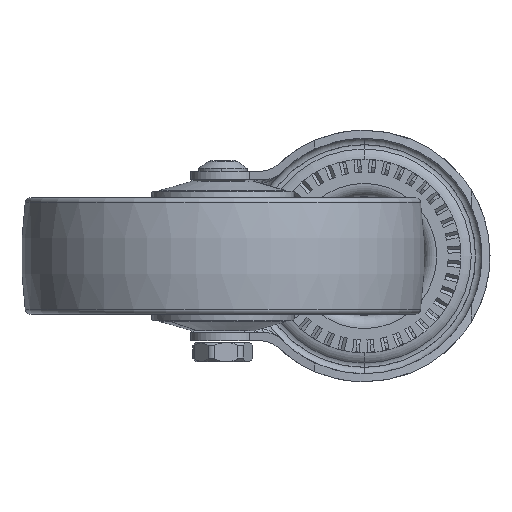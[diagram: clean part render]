
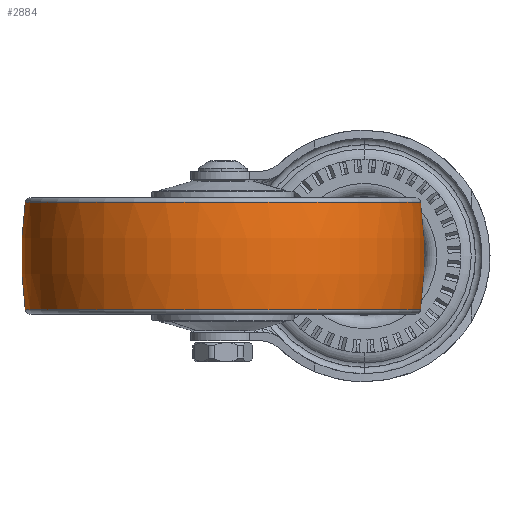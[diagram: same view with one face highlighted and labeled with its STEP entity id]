
A CAD part, front view. The second image highlights one B-rep face of the part: STEP entity #2884.
In plain terms, the highlighted toroidal (fillet/blend) face has major radius 62.5 mm and minor radius 125 mm.
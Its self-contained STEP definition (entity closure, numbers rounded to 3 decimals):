
#2822 = EDGE_LOOP ( 'NONE', ( #2826, #2877, #2825, #2988 ) ) ;
#2825 = ORIENTED_EDGE ( 'NONE', *, *, #4100, .T. ) ;
#2826 = ORIENTED_EDGE ( 'NONE', *, *, #4067, .F. ) ;
#2870 = EDGE_CURVE ( 'NONE', #4112, #4098, #5392, .T. ) ;
#2871 = EDGE_CURVE ( 'NONE', #4104, #4109, #5380, .T. ) ;
#2877 = ORIENTED_EDGE ( 'NONE', *, *, #2871, .T. ) ;
#2884 = ADVANCED_FACE ( 'NONE', ( #5385 ), #5379, .T. ) ;
#2988 = ORIENTED_EDGE ( 'NONE', *, *, #2870, .F. ) ;
#4067 = EDGE_CURVE ( 'NONE', #4104, #4112, #6564, .T. ) ;
#4098 = VERTEX_POINT ( 'NONE', #7545 ) ;
#4100 = EDGE_CURVE ( 'NONE', #4109, #4098, #7552, .T. ) ;
#4104 = VERTEX_POINT ( 'NONE', #7536 ) ;
#4109 = VERTEX_POINT ( 'NONE', #7595 ) ;
#4112 = VERTEX_POINT ( 'NONE', #7586 ) ;
#5373 = AXIS2_PLACEMENT_3D ( 'NONE', #5398, #5424, #5423 ) ;
#5374 = DIRECTION ( 'NONE',  ( -0.998, -0.055, 0. ) ) ;
#5375 = DIRECTION ( 'NONE',  ( 0., 0., -1. ) ) ;
#5376 = CARTESIAN_POINT ( 'NONE',  ( -4.572, -23.18, 38.489 ) ) ;
#5377 = AXIS2_PLACEMENT_3D ( 'NONE', #5376, #5375, #5374 ) ;
#5379 = TOROIDAL_SURFACE ( 'NONE', #5373, -62.5, 125. ) ;
#5380 = CIRCLE ( 'NONE', #5377, 61.379 ) ;
#5381 = DIRECTION ( 'NONE',  ( -0.998, -0.055, 0. ) ) ;
#5382 = DIRECTION ( 'NONE',  ( 0., 0., -1. ) ) ;
#5383 = CARTESIAN_POINT ( 'NONE',  ( -4.572, -23.18, 5.088 ) ) ;
#5384 = AXIS2_PLACEMENT_3D ( 'NONE', #5383, #5382, #5381 ) ;
#5385 = FACE_OUTER_BOUND ( 'NONE', #2822, .T. ) ;
#5392 = CIRCLE ( 'NONE', #5384, 61.379 ) ;
#5398 = CARTESIAN_POINT ( 'NONE',  ( -4.572, -23.18, 21.789 ) ) ;
#5423 = DIRECTION ( 'NONE',  ( -0.998, -0.055, 0. ) ) ;
#5424 = DIRECTION ( 'NONE',  ( 0., 0., -1. ) ) ;
#6564 = CIRCLE ( 'NONE', #6758, 125. ) ;
#6747 = DIRECTION ( 'NONE',  ( -0.998, -0.055, 0. ) ) ;
#6748 = CARTESIAN_POINT ( 'NONE',  ( -66.976, -26.642, 21.789 ) ) ;
#6750 = DIRECTION ( 'NONE',  ( -0.055, 0.998, 0. ) ) ;
#6758 = AXIS2_PLACEMENT_3D ( 'NONE', #6748, #6750, #6747 ) ;
#7536 = CARTESIAN_POINT ( 'NONE',  ( 56.713, -19.78, 38.489 ) ) ;
#7539 = DIRECTION ( 'NONE',  ( 0.998, 0.055, 0. ) ) ;
#7540 = DIRECTION ( 'NONE',  ( 0.055, -0.998, 0. ) ) ;
#7541 = AXIS2_PLACEMENT_3D ( 'NONE', #7560, #7540, #7539 ) ;
#7545 = CARTESIAN_POINT ( 'NONE',  ( -65.857, -26.58, 5.088 ) ) ;
#7552 = CIRCLE ( 'NONE', #7541, 125. ) ;
#7560 = CARTESIAN_POINT ( 'NONE',  ( 57.832, -19.718, 21.789 ) ) ;
#7586 = CARTESIAN_POINT ( 'NONE',  ( 56.713, -19.78, 5.088 ) ) ;
#7595 = CARTESIAN_POINT ( 'NONE',  ( -65.857, -26.58, 38.489 ) ) ;
